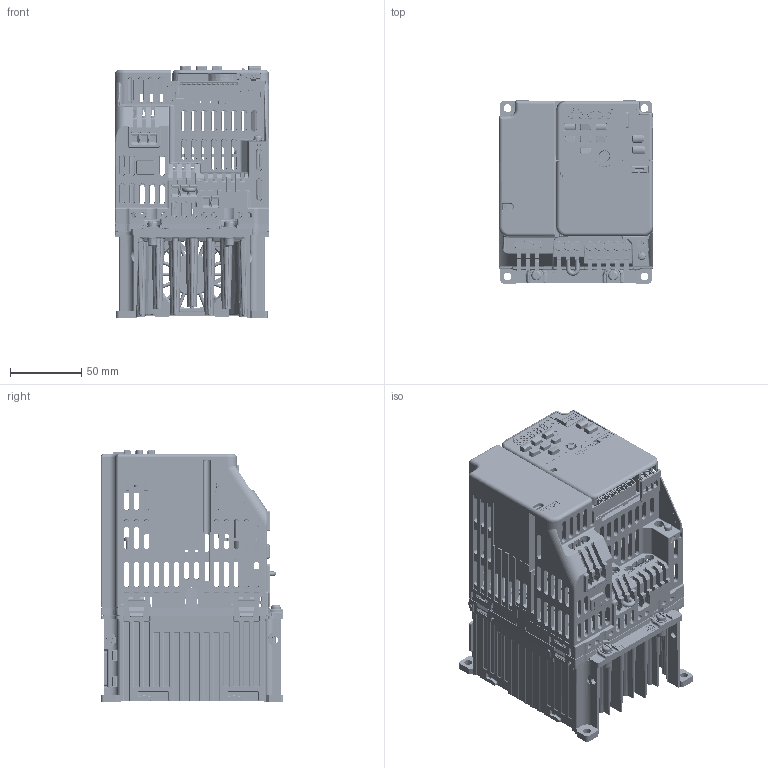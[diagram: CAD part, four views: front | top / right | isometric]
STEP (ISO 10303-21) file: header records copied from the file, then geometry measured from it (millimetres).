
FILE_DESCRIPTION((''),'2;1');
FILE_NAME('GA500_EMC_FRAME_V2-A_ASM','2019-03-11T',('jam'),('YASKAWA ELECTRIC CORCORATION'),'PRO/ENGINEER BY PARAMETRIC TECHNOLOGY CORPORATION, 2015440','PRO/ENGINEER BY PARAMETRIC TECHNOLOGY CORPORATION, 2015440','');
FILE_SCHEMA(('CONFIG_CONTROL_DESIGN'));
Products named in the file (151): LAY_KIPR-GA50_Q_2010_1_1_1_1_1_; 400-104-195_1_1_1_1_1_1_1_1_1; SCAT41279-1_1_1_1_1_1_1_1_1_1; 400-104-226_1_1_1_1_1_1_1_1_1; 05020VE24XBA-XXX_1_1_1_1_1_1_1_; 400-107-684_1_1_1_1_1_1_1_1_1; 400-108-067-01B-1_6PCB_AF0_1_1_; MKDS5NHV_5-ZB-6P35_1_1_1_1_1_1_; KTP761903_6PCB_ASM_1_ASM_1_ASM__ASM; 400-108-067-01B-1_5PCB_AF1_1_1_; MKDS5NHV_3-ZB-6P35_1_1_1_1_1_1_; KTP761903_5PCB_ASM_1_ASM_1_ASM__ASM; 400-108-086_ASM_1_ASM_1_ASM_1_A; 400-104-308-01B-1_AF0_1_1_1_1_1; KTX731433_ASM_1_ASM_1_ASM_1_ASM_ASM; MS15_M3X10_1_1_1_1_1_1_1_1_1; 400-107-693_1_1_1_1_1_1_1_1_1; HSR-M3-5P3_1_1_1_1_1_1_1_1_1; 400-107-693_ASM_1_ASM_1_ASM_1_A_ASM; MS15_M3X20_1_1_1_1_1_1_1_1_1; 400-104-023-01F-5_1PCB_1_1_1_1_; 95003-2884_1_1_1_1_1_1_1_1_1; B12B-PASK-1_1_1_1_1_1_1_1_1_1; MANIFOLD_SOLID_BREP_722336_1_1_; MANIFOLD_SOLID_BREP_722487_1_1_; MANIFOLD_SOLID_BREP_722638_1_1_; MANIFOLD_SOLID_BREP_722789_1_1_; MANIFOLD_SOLID_BREP_722942_1_1_; MANIFOLD_SOLID_BREP_723093_1_1_; MANIFOLD_SOLID_BREP_723244_1_1_; MANIFOLD_SOLID_BREP_723395_1_1_; MANIFOLD_SOLID_BREP_723546_1_1_; MANIFOLD_SOLID_BREP_723697_1_1_; MANIFOLD_SOLID_BREP_723848_1_1_; 1734753-1_AF1_1_ASM_1_ASM_1_ASM_ASM; MANIFOLD_SOLID_BREP_734660_1_1_; MANIFOLD_SOLID_BREP_734844_1_1_; MANIFOLD_SOLID_BREP_735028_1_1_; MANIFOLD_SOLID_BREP_735212_1_1_; MANIFOLD_SOLID_BREP_735396_1_1_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
Assembly tree (155 placements, depth 14):
  GA500_EMC_FRAME_V2-A_ASM
    GA500_EMC_FRAME_V2-A_ASM_1_ASM
      GA500_EMC_FRAME_V2-A_ASM-551412_ASM
        GA500_EMC_FRAME_V2-A_ASM-551380_ASM
          Q2V_FRAME_V2-A_ASM_1_ASM-607607_ASM
            Q2V_FRAME_V2-A_ASM_1_ASM-607542_ASM
              00_CIPR-GA50Z2010EBAA_ASM_1_ASM_ASM
                00_CIPR-GA50Z2010EBAA_AS-611913_ASM
                  00_CIPR-GA50Z2010EBAA_AS-611880_ASM
              400-104-251_1_1_1_1_1
        400-104-251_1_1
    400-108-079_1_1_1_1_1_1
Bounding box: 108.58 x 128.29 x 176.75 mm (x, y, z)
Volume: 520833.6 mm3; surface area: 405478.3 mm2
Topology: 123 solids, 128 shells, 15983 faces, 44297 edges, 28552 vertices
Faces by surface type: plane 9701, cylinder 3434, cone 1062, bspline 969, torus 501, sphere 308, extrusion 8
Entity records: 557912 total; most frequent: CARTESIAN_POINT 162955, ORIENTED_EDGE 86365, DIRECTION 75129, EDGE_CURVE 43193, VECTOR 29299, LINE 29291, VERTEX_POINT 28031, AXIS2_PLACEMENT_3D 22915
